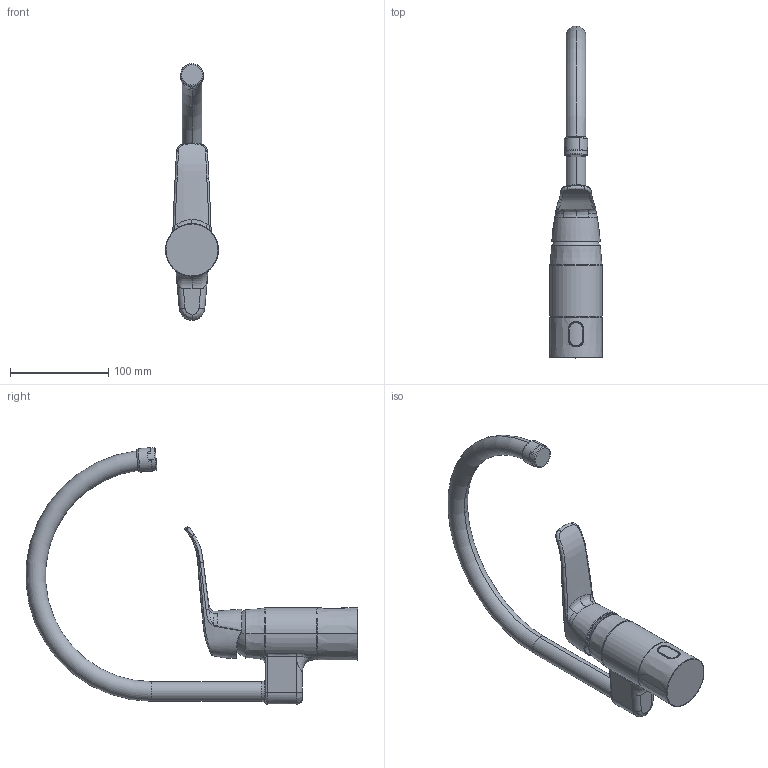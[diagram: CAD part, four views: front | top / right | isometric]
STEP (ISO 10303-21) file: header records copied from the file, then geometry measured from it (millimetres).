
FILE_DESCRIPTION (( 'STEP AP203' ), '1' );
FILE_NAME ('5738FQ(2023).STEP', '2023-10-23T10:25:33', ( '' ), ( '' ), 'SwSTEP 2.0', 'SolidWorks 2016', '' );
FILE_SCHEMA (( 'CONFIG_CONTROL_DESIGN' ));
Length unit declared in the file: millimetre
Products named in the file (1): 5738FQ(2023)
Bounding box: 53.72 x 337.91 x 261.35 mm (x, y, z)
Volume: 546983 mm3; surface area: 73238.3 mm2
Topology: 1 solids, 1 shells, 223 faces, 548 edges, 333 vertices
Faces by surface type: bspline 131, plane 39, cylinder 28, torus 13, cone 12
Entity records: 22081 total; most frequent: CARTESIAN_POINT 17811, ORIENTED_EDGE 1094, EDGE_CURVE 547, DIRECTION 538, VERTEX_POINT 333, B_SPLINE_CURVE_WITH_KNOTS 302, EDGE_LOOP 230, FACE_OUTER_BOUND 223
